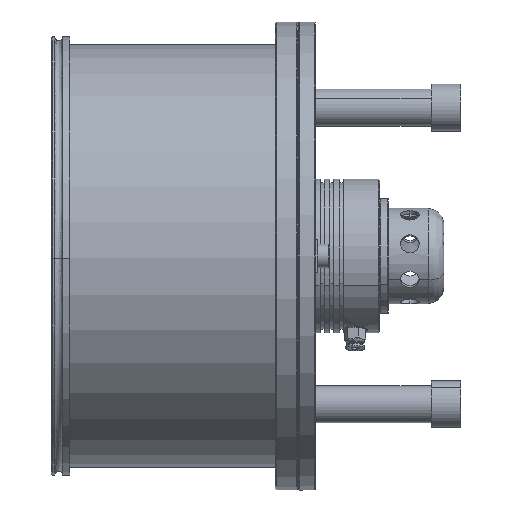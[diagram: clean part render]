
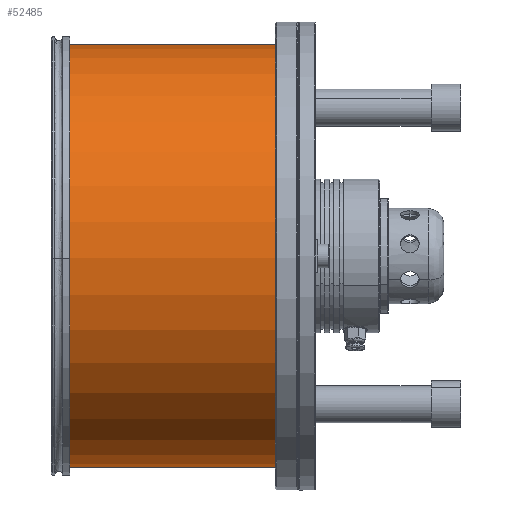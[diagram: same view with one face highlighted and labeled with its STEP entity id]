
A CAD part, left-side view. The second image highlights one B-rep face of the part: STEP entity #52485.
In plain terms, the highlighted cylindrical face has radius 216.5 mm (diameter 433 mm), a partial arc.
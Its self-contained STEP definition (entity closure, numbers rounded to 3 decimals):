
#39 = DIRECTION ( 'NONE',  ( 0., 0., 1. ) ) ;
#1865 = CARTESIAN_POINT ( 'NONE',  ( 0., -85.089, 0. ) ) ;
#6019 = DIRECTION ( 'NONE',  ( 0., 0., 1. ) ) ;
#6852 = VERTEX_POINT ( 'NONE', #46022 ) ;
#8091 = VECTOR ( 'NONE', #41211, 1000. ) ;
#8267 = CIRCLE ( 'NONE', #24776, 216.5 ) ;
#10240 = LINE ( 'NONE', #25496, #28559 ) ;
#11495 = VERTEX_POINT ( 'NONE', #14947 ) ;
#11856 = CARTESIAN_POINT ( 'NONE',  ( 0., 69.832, 216.5 ) ) ;
#12726 = ORIENTED_EDGE ( 'NONE', *, *, #40546, .T. ) ;
#14947 = CARTESIAN_POINT ( 'NONE',  ( 0., 131.411, -216.5 ) ) ;
#16476 = VERTEX_POINT ( 'NONE', #20418 ) ;
#16957 = CARTESIAN_POINT ( 'NONE',  ( 0., 69.832, 0. ) ) ;
#20050 = CIRCLE ( 'NONE', #36967, 216.5 ) ;
#20202 = EDGE_LOOP ( 'NONE', ( #45194, #51393, #32132, #12726 ) ) ;
#20418 = CARTESIAN_POINT ( 'NONE',  ( 0., -85.089, -216.5 ) ) ;
#24776 = AXIS2_PLACEMENT_3D ( 'NONE', #50158, #25048, #39 ) ;
#25048 = DIRECTION ( 'NONE',  ( 0., -1., 0. ) ) ;
#25172 = CYLINDRICAL_SURFACE ( 'NONE', #26852, 216.5 ) ;
#25435 = EDGE_CURVE ( 'NONE', #16476, #35393, #20050, .T. ) ;
#25496 = CARTESIAN_POINT ( 'NONE',  ( 0., 69.832, -216.5 ) ) ;
#26515 = FACE_OUTER_BOUND ( 'NONE', #20202, .T. ) ;
#26852 = AXIS2_PLACEMENT_3D ( 'NONE', #16957, #50278, #50468 ) ;
#28559 = VECTOR ( 'NONE', #29714, 1000. ) ;
#29714 = DIRECTION ( 'NONE',  ( 0., 1., 0. ) ) ;
#30420 = LINE ( 'NONE', #11856, #8091 ) ;
#31106 = DIRECTION ( 'NONE',  ( 0., 1., 0. ) ) ;
#32132 = ORIENTED_EDGE ( 'NONE', *, *, #53509, .T. ) ;
#35393 = VERTEX_POINT ( 'NONE', #48986 ) ;
#36967 = AXIS2_PLACEMENT_3D ( 'NONE', #1865, #31106, #6019 ) ;
#40546 = EDGE_CURVE ( 'NONE', #6852, #11495, #8267, .T. ) ;
#41211 = DIRECTION ( 'NONE',  ( 0., 1., 0. ) ) ;
#41281 = EDGE_CURVE ( 'NONE', #16476, #11495, #10240, .T. ) ;
#45194 = ORIENTED_EDGE ( 'NONE', *, *, #41281, .F. ) ;
#46022 = CARTESIAN_POINT ( 'NONE',  ( 0., 131.411, 216.5 ) ) ;
#48986 = CARTESIAN_POINT ( 'NONE',  ( 0., -85.089, 216.5 ) ) ;
#50158 = CARTESIAN_POINT ( 'NONE',  ( 0., 131.411, 0. ) ) ;
#50278 = DIRECTION ( 'NONE',  ( 0., 1., 0. ) ) ;
#50468 = DIRECTION ( 'NONE',  ( 0., 0., 1. ) ) ;
#51393 = ORIENTED_EDGE ( 'NONE', *, *, #25435, .T. ) ;
#52485 = ADVANCED_FACE ( 'NONE', ( #26515 ), #25172, .T. ) ;
#53509 = EDGE_CURVE ( 'NONE', #35393, #6852, #30420, .T. ) ;
